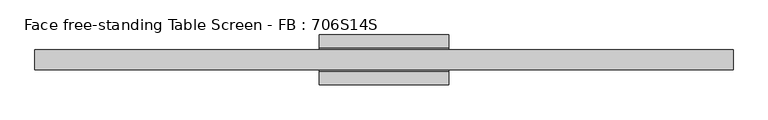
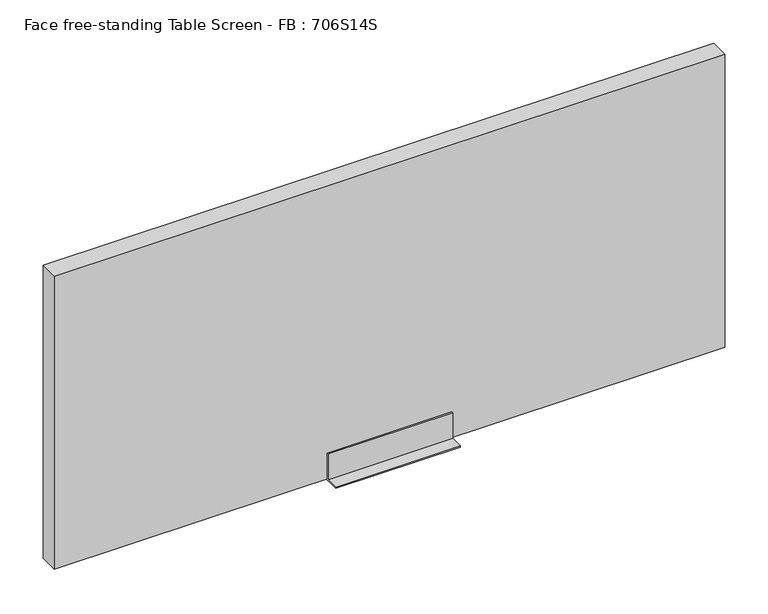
"""IFC4 building model written with IfcOpenShell, lengths in millimetres: furniture geometry, Face free-standing Table Screen - FB : 706S14S."""

from ifc_helpers import new_model, si_unit, frame, origin, place, context, project, spatial, polyline, outline, extrude, source, transform, mapped, element, save


def face_free_standing_table_screen_fb_706s14s_09d87a36(model_context):
    return source(origin(), model_context, "Body", "SweptSolid", [
        extrude(outline(polyline([(-50.0, 3.0), (-22.999995, 3.0), (-23.0, 60.0), (-20.0, 60.0), (-20.0, 3.0), (20.0, 3.0), (20.0, 60.0), (23.0, 60.0), (22.999995, 3.0), (50.0, 3.0), (50.0, 0.0), (-50.0, 0.0), (-50.0, 3.0)])), frame((-130.0, 0.0, 0.0), z_axis=(1.0, 0.0, 0.0), x_axis=(0.0, 1.0, 0.0)), (0.0, 0.0, 1.0), 260.0),
        extrude(outline(polyline([(700.0, -20.0), (-700.0, -20.0), (-700.0, 20.0), (700.0, 20.0), (700.0, -20.0)])), frame((0.0, 0.0, 3.0), z_axis=(0.0, 0.0, 1.0), x_axis=(1.0, 0.0, 0.0)), (0.0, 0.0, 1.0), 647.0),
    ])


if __name__ == "__main__":
    model = new_model("IFC4")
    model_context = context("Model", 3, world=origin())
    ifc_project = project(units=[si_unit("LENGTHUNIT", "METRE", prefix="MILLI")], contexts=[model_context])
    site = spatial("IfcSite", under=ifc_project)
    building = spatial("IfcBuilding", under=site)
    placement = place(None, origin())
    face_free_standing_table_screen_fb_706s14s_shape = face_free_standing_table_screen_fb_706s14s_09d87a36(model_context)
    element("IfcFurniture", 1, ObjectType="Face free-standing Table Screen - FB : 706S14S", at=placement, inside=building, context=model_context, shape_type="MappedRepresentation", body=[
        mapped(face_free_standing_table_screen_fb_706s14s_shape, transform((0.0, 0.0, 0.0), x_axis=(1.0, 0.0, 0.0), y_axis=(0.0, 1.0, 0.0), z_axis=(0.0, 0.0, 1.0))),
    ])
    save(model, "model.ifc")
